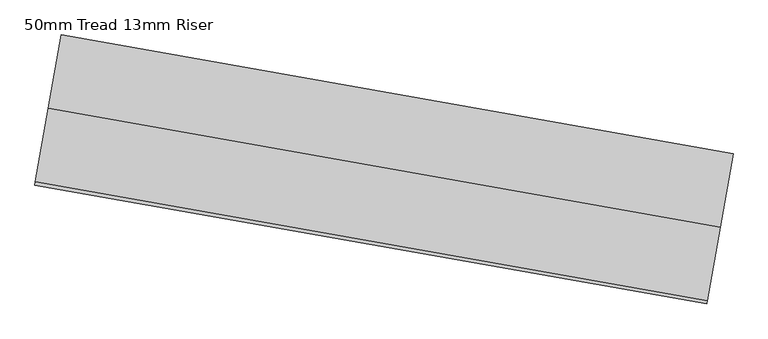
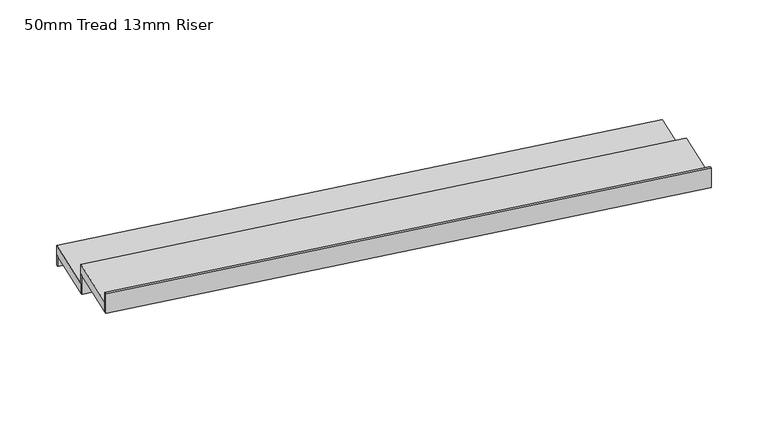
"""IFC4 building model written with IfcOpenShell, lengths in millimetres: stair flight geometry, 50mm Tread 13mm Riser."""

import ifcopenshell
import ifcopenshell.guid

model = None  # the IFC model being written
_history = None  # IfcOwnerHistory: only IFC2X3 demands one
_inside = {}  # id of a spatial element -> (the spatial element, [elements in it])
_under = {}  # id of a project, library or spatial element -> (it, [spatial elements below it])
_declared = {}  # id of a project -> (the project, [libraries it declares])
_typed = {}  # id of a type object -> (the type object, [elements of that type])
_made_of = {}  # id of a material, layer set ... -> (it, [elements and type objects made of it])


def new_model(schema):
    """Start an empty IFC model of exactly this schema.

    Asked for "IFC4X3", IfcOpenShell would pick the latest addendum, in which some entities
    have other attributes; the version numbers below select the first issue.
    IFC2X3 requires an IfcOwnerHistory on every rooted entity: one is made here for all.
    """
    global model, _history
    if schema == "IFC4X3":
        model = ifcopenshell.file(schema_version=(4, 3, 0, 0))
    else:
        model = ifcopenshell.file(schema=schema)
    _inside.clear()
    _under.clear()
    _declared.clear()
    _typed.clear()
    _made_of.clear()
    _history = None
    if model.schema == "IFC2X3":
        org = make("IfcOrganization", Name="unknown")
        user = make(
            "IfcPersonAndOrganization",
            ThePerson=make("IfcPerson", FamilyName="unknown"),
            TheOrganization=org,
        )
        app = make(
            "IfcApplication",
            ApplicationDeveloper=org,
            Version="unknown",
            ApplicationFullName="unknown",
            ApplicationIdentifier="unknown",
        )
        _history = make(
            "IfcOwnerHistory",
            OwningUser=user,
            OwningApplication=app,
            ChangeAction="ADDED",
            CreationDate=0,
        )
    return model


def make(cls, **values):
    """One entity of the class cls with the attributes given. An attribute that is None is left unset."""
    return model.create_entity(
        cls, **{name: value for name, value in values.items() if value is not None}
    )


def rooted(cls, **values):
    """An entity with a GlobalId (a new one), such as an element, a storey or a relation."""
    return make(cls, GlobalId=ifcopenshell.guid.new(), OwnerHistory=_history, **values)


def si_unit(unit_type, name, prefix=None):
    """IfcSIUnit, for example si_unit("LENGTHUNIT", "METRE", prefix="MILLI")."""
    return make("IfcSIUnit", UnitType=unit_type, Prefix=prefix, Name=name)


def assignment(units):
    """IfcUnitAssignment: the units of a project."""
    return None if units is None else make("IfcUnitAssignment", Units=units)


def point(xyz):
    """IfcCartesianPoint."""
    return None if xyz is None else make("IfcCartesianPoint", Coordinates=xyz)


def direction(xyz):
    """IfcDirection."""
    return None if xyz is None else make("IfcDirection", DirectionRatios=xyz)


def frame(location, z_axis=None, x_axis=None):
    """IfcAxis2Placement3D, a coordinate frame: its origin and axes. An axis left out is left unset."""
    return make(
        "IfcAxis2Placement3D",
        Location=point(location),
        Axis=direction(z_axis),
        RefDirection=direction(x_axis),
    )


def origin():
    """The frame at (0, 0, 0) with its axes left unset."""
    return frame((0.0, 0.0, 0.0))


def place(relative_to, where):
    """IfcLocalPlacement: puts the frame where relative to a parent placement (None: the world)."""
    return make(
        "IfcLocalPlacement", PlacementRelTo=relative_to, RelativePlacement=where
    )


def context(
    kind, dimensions, precision=None, world=None, true_north=None, identifier=None
):
    """IfcGeometricRepresentationContext, for example the 3D "Model" context."""
    return make(
        "IfcGeometricRepresentationContext",
        ContextIdentifier=identifier,
        ContextType=kind,
        CoordinateSpaceDimension=dimensions,
        Precision=precision,
        WorldCoordinateSystem=world,
        TrueNorth=true_north,
    )


def project(units=None, contexts=None):
    """IfcProject with its units and contexts."""
    return rooted(
        "IfcProject",
        Name="project",
        RepresentationContexts=contexts,
        UnitsInContext=assignment(units),
    )


def spatial(cls, under=None, at=None, **own):
    """A site, building, storey or space (cls), placed at a placement, below another one or the project."""
    s = rooted(cls, ObjectPlacement=at, **own)
    if under is not None:
        _under.setdefault(under.id(), (under, []))[1].append(s)
    return s


def polyline(points):
    """IfcPolyline through the points."""
    return make("IfcPolyline", Points=[point(p) for p in points])


def outline(outer, holes=None, kind="AREA"):
    """IfcArbitraryClosedProfileDef: a profile drawn as a closed curve; with holes, ...WithVoids."""
    if holes is None:
        return make("IfcArbitraryClosedProfileDef", ProfileType=kind, OuterCurve=outer)
    return make(
        "IfcArbitraryProfileDefWithVoids",
        ProfileType=kind,
        OuterCurve=outer,
        InnerCurves=holes,
    )


def extrude(swept, where, along, depth):
    """IfcExtrudedAreaSolid: the profile swept, set in the frame where, extruded along a direction by depth."""
    return make(
        "IfcExtrudedAreaSolid",
        SweptArea=swept,
        Position=where,
        ExtrudedDirection=direction(along),
        Depth=depth,
    )


def shape(context_of_items, identifier, shape_type, items):
    """IfcShapeRepresentation: the items that make up one representation, for example the "Body"."""
    return make(
        "IfcShapeRepresentation",
        ContextOfItems=context_of_items,
        RepresentationIdentifier=identifier,
        RepresentationType=shape_type,
        Items=items,
    )


def source(mapping_origin, context_of_items, identifier, shape_type, items):
    """IfcRepresentationMap: a shape defined once, which mapped items show again and again."""
    return make(
        "IfcRepresentationMap",
        MappingOrigin=mapping_origin,
        MappedRepresentation=shape(context_of_items, identifier, shape_type, items),
    )


def transform(
    local_origin,
    x_axis=None,
    y_axis=None,
    z_axis=None,
    scale=None,
    scale2=None,
    scale3=None,
    uniform=True,
):
    """IfcCartesianTransformationOperator3D, or its non-uniform kind. x_axis, y_axis, z_axis: its Axis1, 2, 3."""
    if uniform:
        return make(
            "IfcCartesianTransformationOperator3D",
            Axis1=direction(x_axis),
            Axis2=direction(y_axis),
            LocalOrigin=point(local_origin),
            Scale=scale,
            Axis3=direction(z_axis),
        )
    return make(
        "IfcCartesianTransformationOperator3DnonUniform",
        Axis1=direction(x_axis),
        Axis2=direction(y_axis),
        LocalOrigin=point(local_origin),
        Scale=scale,
        Axis3=direction(z_axis),
        Scale2=scale2,
        Scale3=scale3,
    )


def mapped(mapping_source, mapping_target):
    """IfcMappedItem: shows the shape of a source again, moved by a transform."""
    return make(
        "IfcMappedItem", MappingSource=mapping_source, MappingTarget=mapping_target
    )


def made_of(thing, what):
    """Note that an element or type object is made of a material, layer set ...; save() writes the relation."""
    if what is not None:
        _made_of.setdefault(what.id(), (what, []))[1].append(thing)
    return thing


def element(
    cls,
    number,
    at=None,
    inside=None,
    cuts=None,
    type_object=None,
    material=None,
    context=None,
    identifier="Body",
    shape_type=None,
    held_by="IfcProductDefinitionShape",
    body=None,
    shapes=None,
    **own,
):
    """One element of the class cls, such as IfcWall. Its Tag is "e" and its number.

    at: its placement. inside: the storey or other place that contains it. cuts: it is an
    opening in that element (IfcRelVoidsElement). A single representation is given by context,
    identifier, shape_type and body (its items); several are given by shapes. held_by: the class
    of the entity that holds the representations. save() writes the other relations.
    """
    e = rooted(cls, Tag="e%d" % number, ObjectPlacement=at, **own)
    if body is not None:
        shapes = [shape(context, identifier, shape_type, body)]
    if shapes is not None:
        e.Representation = make(held_by, Representations=shapes)
    if inside is not None:
        _inside.setdefault(inside.id(), (inside, []))[1].append(e)
    if cuts is not None:
        rooted(
            "IfcRelVoidsElement", RelatingBuildingElement=cuts, RelatedOpeningElement=e
        )
    if type_object is not None:
        _typed.setdefault(type_object.id(), (type_object, []))[1].append(e)
    return made_of(e, material)


def aggregate(whole, parts):
    """IfcRelAggregates: a whole, such as a stair, and the parts it consists of."""
    return rooted("IfcRelAggregates", RelatingObject=whole, RelatedObjects=parts)


def save(model, path):
    """Write the relations noted so far, then the file.

    IfcRelAggregates (storeys below a building ...), IfcRelContainedInSpatialStructure (elements
    in a storey), IfcRelDefinesByType, IfcRelAssociatesMaterial and IfcRelDeclares: one each for
    every whole, place, type object, material and project.
    """
    for whole, parts in _under.values():
        aggregate(whole, parts)
    for where, things in _inside.values():
        rooted(
            "IfcRelContainedInSpatialStructure",
            RelatedElements=things,
            RelatingStructure=where,
        )
    for kind, things in _typed.values():
        rooted("IfcRelDefinesByType", RelatedObjects=things, RelatingType=kind)
    for what, things in _made_of.values():
        rooted("IfcRelAssociatesMaterial", RelatedObjects=things, RelatingMaterial=what)
    for by, libraries in _declared.values():
        rooted("IfcRelDeclares", RelatingContext=by, RelatedDefinitions=libraries)
    model.write(path)


def stair_flight_50mm_tread_13mm_riser_88d25fb5(model_context):
    return source(origin(), model_context, "Body", "SweptSolid", [
        extrude(outline(polyline([(32954.1368137, -13014.9563409), (32956.3149179, -13002.6475692), (35654.0685715, -13480.0297759), (35651.8904673, -13492.3385477), (32954.1368137, -13014.9563409)])), frame((0.0, 0.0, -300.0), z_axis=(0.0, 0.0, 1.0), x_axis=(1.0, 0.0, 0.0)), (0.0, 0.0, 1.0), 50.0),
        extrude(outline(polyline([(35601.7940702, -13775.4402979), (32904.0404166, -13298.0580912), (32956.3149179, -13002.6475692), (35654.0685715, -13480.0297759), (35601.7940702, -13775.4402979)])), frame((0.0, 0.0, -250.0), z_axis=(0.0, 0.0, 1.0), x_axis=(1.0, 0.0, 0.0)), (0.0, 0.0, 1.0), 50.0),
        extrude(outline(polyline([(32901.8623124, -13310.3668629), (32904.0404166, -13298.0580912), (35601.7940702, -13775.4402979), (35599.615966, -13787.7490697), (32901.8623124, -13310.3668629)])), frame((0.0, 0.0, -250.0), z_axis=(0.0, 0.0, 1.0), x_axis=(1.0, 0.0, 0.0)), (0.0, 0.0, 1.0), 100.0),
        extrude(outline(polyline([(32849.5878111, -13605.777385), (32851.7659153, -13593.4686132), (35549.5195689, -14070.8508199), (35547.3414647, -14083.1595917), (32849.5878111, -13605.777385)])), frame((0.0, 0.0, -150.0), z_axis=(0.0, 0.0, 1.0), x_axis=(1.0, 0.0, 0.0)), (0.0, 0.0, 1.0), 100.0),
        extrude(outline(polyline([(35549.5195689, -14070.8508199), (32851.7659153, -13593.4686132), (32904.0404166, -13298.0580912), (35601.7940702, -13775.4402979), (35549.5195689, -14070.8508199)])), frame((0.0, 0.0, -150.0), z_axis=(0.0, 0.0, 1.0), x_axis=(1.0, 0.0, 0.0)), (0.0, 0.0, 1.0), 50.0),
    ])


if __name__ == "__main__":
    model = new_model("IFC4")
    model_context = context("Model", 3, world=origin())
    ifc_project = project(units=[si_unit("LENGTHUNIT", "METRE", prefix="MILLI")], contexts=[model_context])
    site = spatial("IfcSite", under=ifc_project)
    building = spatial("IfcBuilding", under=site)
    placement = place(None, origin())
    stair_flight_50mm_tread_13mm_riser_shape = stair_flight_50mm_tread_13mm_riser_88d25fb5(model_context)
    element("IfcStairFlight", 1, ObjectType="50mm Tread 13mm Riser", at=placement, inside=building, context=model_context, shape_type="MappedRepresentation", body=[
        mapped(stair_flight_50mm_tread_13mm_riser_shape, transform((0.0, 0.0, 0.0), x_axis=(1.0, 0.0, 0.0), y_axis=(0.0, 1.0, 0.0), z_axis=(0.0, 0.0, 1.0))),
    ])
    save(model, "model.ifc")
